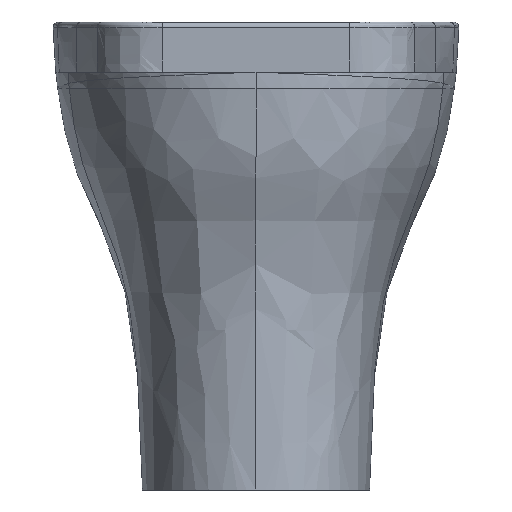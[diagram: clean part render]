
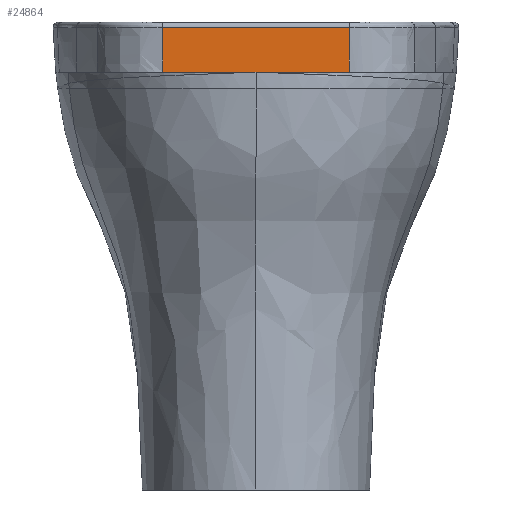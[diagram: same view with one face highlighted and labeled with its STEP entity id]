
A CAD part, left-side view. The second image highlights one B-rep face of the part: STEP entity #24864.
In plain terms, the highlighted planar face has unit normal (-1, 0, 0).
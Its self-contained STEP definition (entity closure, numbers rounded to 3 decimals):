
#24822=AXIS2_PLACEMENT_3D('Plane Axis2P3D',#24819,#24820,#24821) ;
#24819=CARTESIAN_POINT('Axis2P3D Location',(0.,0.,0.)) ;
#24824=CARTESIAN_POINT('Line Origine',(0.,0.,-5.)) ;
#24828=CARTESIAN_POINT('Vertex',(0.,-83.94,-5.)) ;
#24830=CARTESIAN_POINT('Vertex',(0.,83.94,-5.)) ;
#24834=CARTESIAN_POINT('Control Point',(0.,83.94,-5.)) ;
#24835=CARTESIAN_POINT('Control Point',(0.,84.032,-12.986)) ;
#24836=CARTESIAN_POINT('Control Point',(0.,84.063,-20.98)) ;
#24837=CARTESIAN_POINT('Control Point',(0.,84.037,-28.982)) ;
#24838=CARTESIAN_POINT('Control Point',(0.,83.955,-36.989)) ;
#24839=CARTESIAN_POINT('Control Point',(0.,83.82,-45.)) ;
#24840=CARTESIAN_POINT('Vertex',(0.,83.82,-45.)) ;
#24843=CARTESIAN_POINT('Line Origine',(0.,0.,-45.)) ;
#24847=CARTESIAN_POINT('Vertex',(0.,-83.82,-45.)) ;
#24851=CARTESIAN_POINT('Control Point',(0.,-83.94,-5.)) ;
#24852=CARTESIAN_POINT('Control Point',(0.,-84.032,-12.986)) ;
#24853=CARTESIAN_POINT('Control Point',(0.,-84.063,-20.98)) ;
#24854=CARTESIAN_POINT('Control Point',(0.,-84.037,-28.982)) ;
#24855=CARTESIAN_POINT('Control Point',(0.,-83.955,-36.989)) ;
#24856=CARTESIAN_POINT('Control Point',(0.,-83.82,-45.)) ;
#24820=DIRECTION('Axis2P3D Direction',(-1.,0.,0.)) ;
#24821=DIRECTION('Axis2P3D XDirection',(0.,1.,0.)) ;
#24825=DIRECTION('Vector Direction',(0.,-1.,0.)) ;
#24844=DIRECTION('Vector Direction',(0.,1.,0.)) ;
#24826=VECTOR('Line Direction',#24825,1.) ;
#24845=VECTOR('Line Direction',#24844,1.) ;
#24859=ORIENTED_EDGE('',*,*,#24832,.T.) ;
#24860=ORIENTED_EDGE('',*,*,#24842,.T.) ;
#24861=ORIENTED_EDGE('',*,*,#24849,.T.) ;
#24862=ORIENTED_EDGE('',*,*,#24857,.F.) ;
#24864=ADVANCED_FACE('PartBody',(#24863),#24823,.T.) ;
#24833=B_SPLINE_CURVE_WITH_KNOTS('',5,(#24834,#24835,#24836,#24837,#24838,#24839),.UNSPECIFIED.,.F.,.U.,(6,6),(30.019,101.293),.UNSPECIFIED.) ;
#24850=B_SPLINE_CURVE_WITH_KNOTS('',5,(#24851,#24852,#24853,#24854,#24855,#24856),.UNSPECIFIED.,.F.,.U.,(6,6),(30.019,101.293),.UNSPECIFIED.) ;
#24832=EDGE_CURVE('',#24829,#24831,#24827,.F.) ;
#24842=EDGE_CURVE('',#24831,#24841,#24833,.T.) ;
#24849=EDGE_CURVE('',#24841,#24848,#24846,.F.) ;
#24857=EDGE_CURVE('',#24829,#24848,#24850,.T.) ;
#24858=EDGE_LOOP('',(#24859,#24860,#24861,#24862)) ;
#24863=FACE_OUTER_BOUND('',#24858,.T.) ;
#24827=LINE('Line',#24824,#24826) ;
#24846=LINE('Line',#24843,#24845) ;
#24823=PLANE('Plane',#24822) ;
#24829=VERTEX_POINT('',#24828) ;
#24831=VERTEX_POINT('',#24830) ;
#24841=VERTEX_POINT('',#24840) ;
#24848=VERTEX_POINT('',#24847) ;
